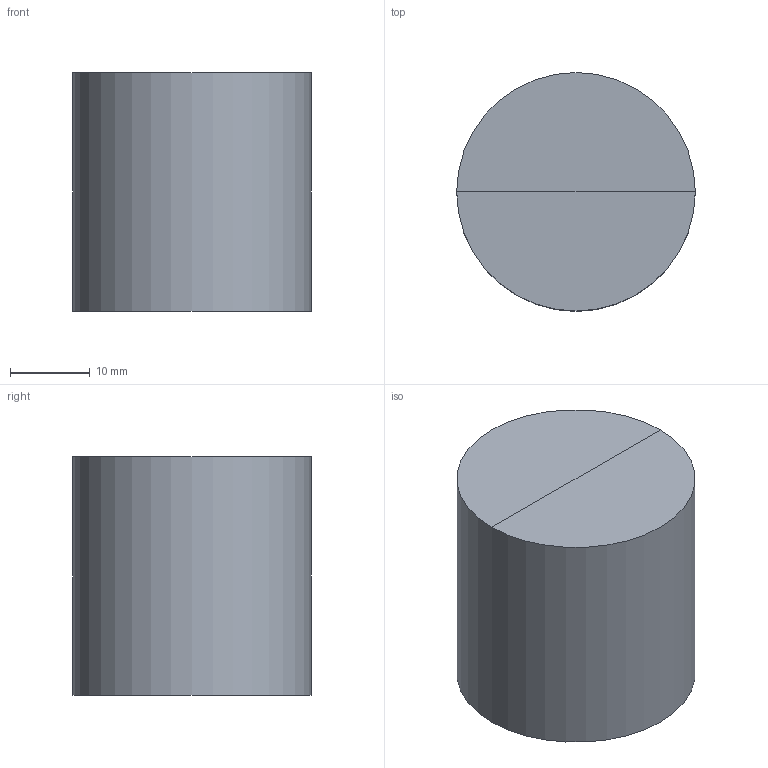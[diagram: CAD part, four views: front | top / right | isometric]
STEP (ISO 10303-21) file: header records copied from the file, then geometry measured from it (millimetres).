
FILE_DESCRIPTION(/* description */ (''),/* implementation_level */ '2;1');
FILE_NAME(/* name */ 'M:\Symbolen_NIEUW\STP\100-er truss\S100F\S100F-L074_111110029.stp',/* time_stamp */ '2017-11-30T14:44:56+01:00',/* author */ ('Kees'),/* organization */ (''),/* preprocessor_version */ 'ST-DEVELOPER v16.13',/* originating_system */ 'Autodesk Inventor 2018',/* authorisation */ '');
FILE_SCHEMA (('AUTOMOTIVE_DESIGN { 1 0 10303 214 3 1 1 }'));
Length unit declared in the file: millimetre
Products named in the file (1): 260010064
Bounding box: 30 x 30 x 30 mm (x, y, z)
Volume: 21205.8 mm3; surface area: 4241.2 mm2
Topology: 1 solids, 1 shells, 5 faces, 7 edges, 4 vertices
Faces by surface type: plane 4, cylinder 1
Full cylindrical faces by diameter (mm): 30 x1
Entity records: 163 total; most frequent: DIRECTION 22, CARTESIAN_POINT 16, ORIENTED_EDGE 12, AXIS2_PLACEMENT_3D 10, EDGE_LOOP 6, EDGE_CURVE 6, STYLED_ITEM 6, FACE_OUTER_BOUND 5
